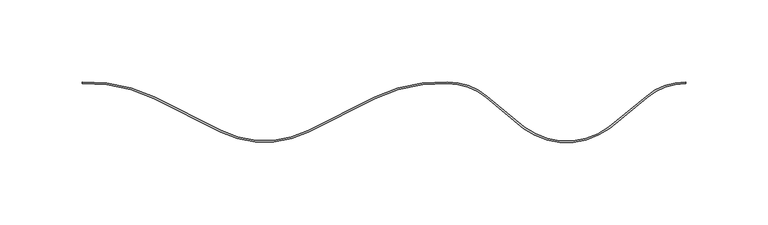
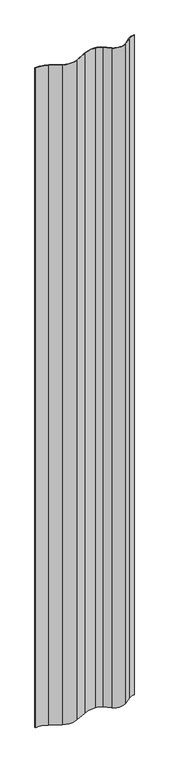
"""IFC4 building model written with IfcOpenShell, lengths in millimetres: plate geometry, Ritmica Couverture 368  : Ritmica Couverture 368 ."""

from ifc_helpers import new_model, si_unit, point, frame_2d, origin, origin_with_axes, place, context, project, spatial, polyline, circle_curve, trimmed, segment, composite_curve, outline, extrude, source, transform, mapped, element, save


def plate_77d06c6c(model_context):
    return source(origin(), model_context, "Body", "SweptSolid", [
        extrude(outline(composite_curve([segment(trimmed(circle_curve(frame_2d((-180.6365168, -57.1416685)), 93.293376), [point((-140.1845002, 26.9254973))], [point((-183.95, 36.0928468))], True, "CARTESIAN"), True, "CONTINUOUS"), segment(polyline([(-183.95, 36.0928468), (-183.95, 37.0934714)]), True, "CONTINUOUS"), segment(trimmed(circle_curve(frame_2d((-180.6365168, -57.1416685)), 94.293376), [point((-183.95, 37.0934714))], [point((-139.7430218, 27.8228114))], False, "CARTESIAN"), True, "CONTINUOUS"), segment(polyline([(-139.7430218, 27.8228114), (-99.197877, 7.4347692)]), True, "CONTINUOUS"), segment(trimmed(circle_curve(frame_2d((-72.6922493, 60.1457899)), 59.0), [point((-99.197877, 7.4347692))], [point((-46.1924014, 7.4318632))], True, "CARTESIAN"), True, "CONTINUOUS"), segment(polyline([(-46.1924014, 7.4318632), (-5.6450213, 27.8154597)]), True, "CONTINUOUS"), segment(trimmed(circle_curve(frame_2d((35.2391573, -57.1535035)), 94.293376), [point((-5.6450213, 27.8154597))], [point((38.5629741, 37.0812725))], False, "CARTESIAN"), True, "CONTINUOUS"), segment(trimmed(circle_curve(frame_2d((38.5431169, -1.0501427)), 38.1314203), [point((38.5629741, 37.0812725))], [point((62.9520893, 28.2450324))], False, "CARTESIAN"), True, "CONTINUOUS"), segment(polyline([(62.9520893, 28.2450324), (85.3617355, 9.5731372)]), True, "CONTINUOUS"), segment(trimmed(circle_curve(frame_2d((111.1726332, 44.140632)), 43.1406321), [point((85.3617355, 9.5731372))], [point((136.9797406, 9.5703074))], True, "CARTESIAN"), True, "CONTINUOUS"), segment(polyline([(136.9797406, 9.5703074), (159.6937483, 28.2398387)]), True, "CONTINUOUS"), segment(trimmed(circle_curve(frame_2d((184.0995084, -1.0580125)), 38.1314203), [point((159.6937483, 28.2398387))], [point((183.9934113, 37.0732602))], False, "CARTESIAN"), True, "CONTINUOUS"), segment(polyline([(183.9934113, 37.0732602), (183.9937205, 36.0732571)]), True, "CONTINUOUS"), segment(trimmed(circle_curve(frame_2d((184.0995084, -1.0580125)), 37.1314203), [point((183.9937205, 36.0732571))], [point((160.3337916, 27.4714999))], True, "CARTESIAN"), True, "CONTINUOUS"), segment(polyline([(160.3337916, 27.4714999), (137.5994238, 8.7850081)]), True, "CONTINUOUS"), segment(trimmed(circle_curve(frame_2d((111.1726332, 44.140632)), 44.1406321), [point((137.5994238, 8.7850081))], [point((84.7419662, 8.787906))], False, "CARTESIAN"), True, "CONTINUOUS"), segment(polyline([(84.7419662, 8.787906), (62.3119617, 27.4767637)]), True, "CONTINUOUS"), segment(trimmed(circle_curve(frame_2d((38.5431169, -1.0501427)), 37.1314203), [point((62.3119617, 27.4767637))], [point((38.5451525, 36.0812776))], True, "CARTESIAN"), True, "CONTINUOUS"), segment(trimmed(circle_curve(frame_2d((35.2391573, -57.1535035)), 93.293376), [point((38.5451525, 36.0812776))], [point((-5.2036413, 26.9180972))], True, "CARTESIAN"), True, "CONTINUOUS"), segment(polyline([(-5.2036413, 26.9180972), (-45.7432514, 6.5384068)]), True, "CONTINUOUS"), segment(trimmed(circle_curve(frame_2d((-72.6922493, 60.1457899)), 60.0), [point((-45.7432514, 6.5384068))], [point((-99.6471249, 6.541362))], False, "CARTESIAN"), True, "CONTINUOUS"), segment(polyline([(-99.6471249, 6.541362), (-140.1845002, 26.9254973)]), True, "CONTINUOUS")], self_intersect=False)), origin_with_axes(), (0.0, 0.0, 1.0), 2588.190451),
    ])


if __name__ == "__main__":
    model = new_model("IFC4")
    model_context = context("Model", 3, world=origin())
    ifc_project = project(units=[si_unit("LENGTHUNIT", "METRE", prefix="MILLI")], contexts=[model_context])
    site = spatial("IfcSite", under=ifc_project)
    building = spatial("IfcBuilding", under=site)
    placement = place(None, origin())
    plate_shape = plate_77d06c6c(model_context)
    element("IfcPlate", 1, ObjectType="Ritmica Couverture 368  : Ritmica Couverture 368 ", at=placement, inside=building, context=model_context, shape_type="MappedRepresentation", body=[
        mapped(plate_shape, transform((0.0, 0.0, 0.0), x_axis=(1.0, 0.0, 0.0), y_axis=(0.0, 1.0, 0.0), z_axis=(0.0, 0.0, 1.0))),
    ])
    save(model, "model.ifc")
